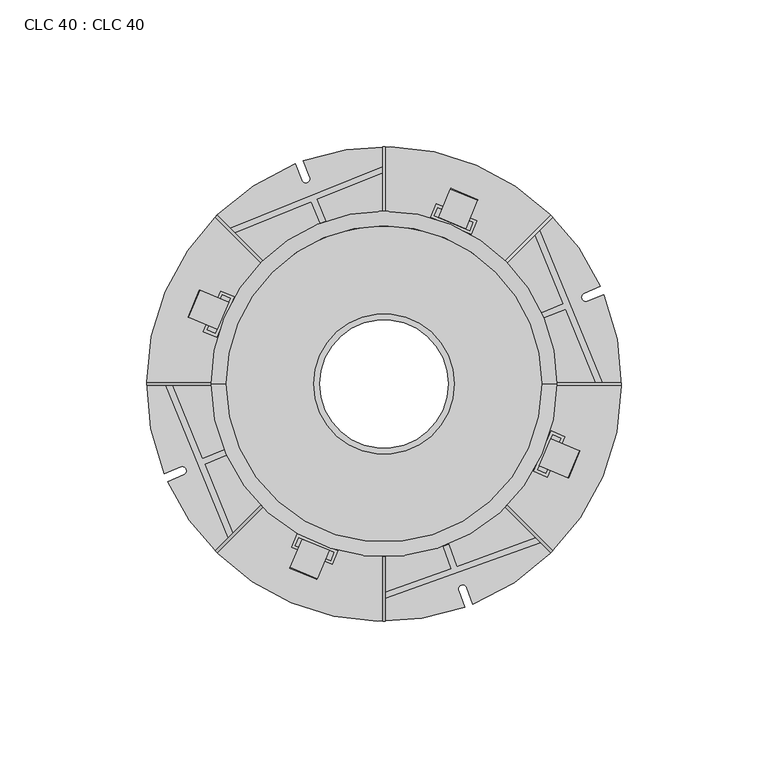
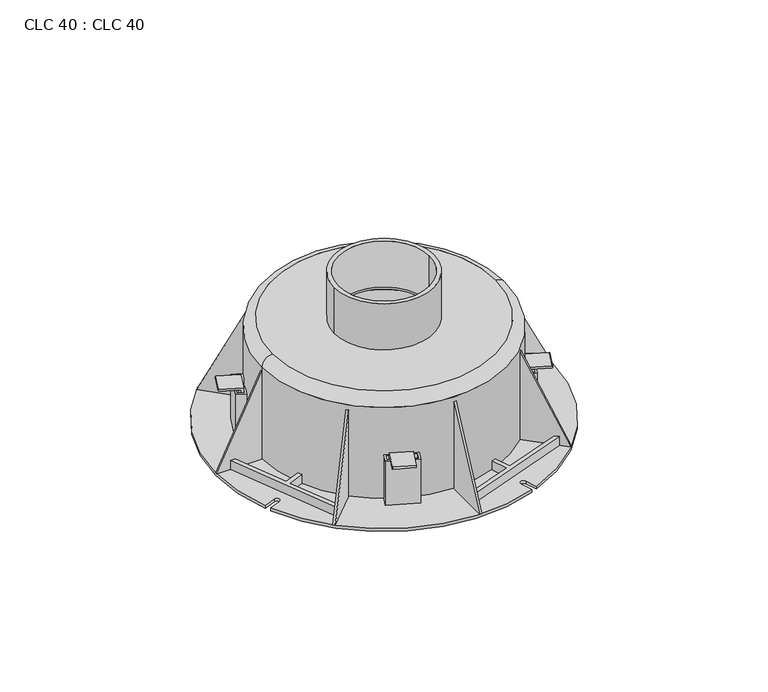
"""IFC4 building model written with IfcOpenShell, lengths in millimetres: proxy geometry, CLC 40 : CLC 40."""

from ifc_helpers import new_model, si_unit, point, frame, frame_2d, origin, origin_with_axes, origin_2d, place, context, project, spatial, polyline, circle_curve, ellipse_curve, trimmed, segment, composite_curve, outline, extrude, source, transform, mapped, element, save
from ifc_brep_helpers import plane_surface, cylinder_surface, revolved_surface, extruded_surface, advanced_brep


def clc_40_clc_40_8cc9e53f(model_context):
    return source(origin(), model_context, "Body", "SolidModel", [
        advanced_brep(
        [(24.7583425, 45.7277211, 6.0), (27.7719901, 52.8569236, 6.0), (18.5611342, 56.7505251, 6.0), (15.5474866, 49.6213226, 6.0), (-45.7246033, 24.7641001, 6.0), (-52.8534263, 27.7786453, 6.0), (-56.7481876, 18.5682797, 6.0), (-49.6193646, 15.5537345, 6.0), (-24.8886054, -45.6569526, 6.0), (-27.9022148, -52.7861712, 6.0), (-18.6913381, -56.6797235, 6.0), (-15.6888479, -49.5768096, 6.0), (45.72778, -24.7582337, 6.0), (52.8569897, -27.7718643, 6.0), (56.7505693, -18.5609991, 6.0), (49.6213596, -15.5473685, 6.0), (41.5, 0.0, 6.0), (-41.5, 0.0, 6.0), (24.7583425, 45.7277211, 5.0), (49.6213596, -15.5473685, 5.0), (56.7505693, -18.5609991, 5.0), (52.8569897, -27.7718643, 5.0), (45.72778, -24.7582337, 5.0), (-15.6888479, -49.5768096, 5.0), (-18.6913381, -56.6797235, 5.0), (-27.9022148, -52.7861712, 5.0), (-24.8886054, -45.6569526, 5.0), (-49.6193646, 15.5537345, 5.0), (-56.7481876, 18.5682797, 5.0), (-52.8534263, 27.7786453, 5.0), (-45.7246033, 24.7641001, 5.0), (15.5474866, 49.6213226, 5.0), (18.5611342, 56.7505251, 5.0), (27.7719901, 52.8569236, 5.0), (-40.0, 0.0, 5.0), (40.0, 0.0, 5.0), (40.0, 0.0, 6.0), (-40.0, 0.0, 6.0), (-41.5, 0.0, 9.5), (41.5, 0.0, 9.5), (-40.0, 0.0, 9.5), (40.0, 0.0, 9.5)],
        [
            (0, 1),
            (1, 2),
            (2, 3),
            (3, 4, circle_curve(frame((0.0, 0.0, 6.0), z_axis=(0.0, 0.0, 1.0), x_axis=(1.0, 0.0, 0.0)), 52.0)),
            (4, 5),
            (5, 6),
            (6, 7),
            (7, 8, circle_curve(frame((0.0, 0.0, 6.0), z_axis=(0.0, 0.0, 1.0), x_axis=(1.0, 0.0, 0.0)), 52.0)),
            (8, 9),
            (9, 10),
            (10, 11),
            (11, 12, circle_curve(frame((0.0, 0.0, 6.0), z_axis=(0.0, 0.0, 1.0), x_axis=(1.0, 0.0, 0.0)), 52.0)),
            (12, 13),
            (13, 14),
            (14, 15),
            (15, 0, circle_curve(frame((0.0, 0.0, 6.0), z_axis=(0.0, 0.0, 1.0), x_axis=(1.0, 0.0, 0.0)), 52.0)),
            (16, 17, circle_curve(frame((0.0, 0.0, 6.0), z_axis=(0.0, 0.0, -1.0), x_axis=(1.0, 0.0, 0.0)), 41.5)),
            (17, 16, circle_curve(frame((0.0, 0.0, 6.0), z_axis=(0.0, 0.0, -1.0), x_axis=(1.0, 0.0, 0.0)), 41.5)),
            (18, 19, circle_curve(frame((0.0, 0.0, 5.0), z_axis=(0.0, 0.0, -1.0), x_axis=(1.0, 0.0, 0.0)), 52.0)),
            (19, 20),
            (20, 21),
            (21, 22),
            (22, 23, circle_curve(frame((0.0, 0.0, 5.0), z_axis=(0.0, 0.0, -1.0), x_axis=(1.0, 0.0, 0.0)), 52.0)),
            (23, 24),
            (24, 25),
            (25, 26),
            (26, 27, circle_curve(frame((0.0, 0.0, 5.0), z_axis=(0.0, 0.0, -1.0), x_axis=(1.0, 0.0, 0.0)), 52.0)),
            (27, 28),
            (28, 29),
            (29, 30),
            (30, 31, circle_curve(frame((0.0, 0.0, 5.0), z_axis=(0.0, 0.0, -1.0), x_axis=(1.0, 0.0, 0.0)), 52.0)),
            (31, 32),
            (32, 33),
            (33, 18),
            (34, 35, circle_curve(frame((0.0, 0.0, 5.0), z_axis=(0.0, 0.0, 1.0), x_axis=(1.0, 0.0, 0.0)), 40.0)),
            (35, 34, circle_curve(frame((0.0, 0.0, 5.0), z_axis=(0.0, 0.0, 1.0), x_axis=(1.0, 0.0, 0.0)), 40.0)),
            (35, 36),
            (36, 37, circle_curve(frame((0.0, 0.0, 6.0), z_axis=(0.0, 0.0, 1.0), x_axis=(1.0, 0.0, 0.0)), 40.0)),
            (37, 34),
            (37, 36, circle_curve(frame((0.0, 0.0, 6.0), z_axis=(0.0, 0.0, 1.0), x_axis=(1.0, 0.0, 0.0)), 40.0)),
            (0, 18),
            (33, 1),
            (32, 2),
            (31, 3),
            (30, 4),
            (29, 5),
            (28, 6),
            (27, 7),
            (26, 8),
            (25, 9),
            (24, 10),
            (23, 11),
            (22, 12),
            (21, 13),
            (20, 14),
            (19, 15),
            (38, 39, circle_curve(frame((0.0, 0.0, 9.5), z_axis=(0.0, 0.0, 1.0), x_axis=(1.0, 0.0, 0.0)), 41.5)),
            (39, 38, circle_curve(frame((0.0, 0.0, 9.5), z_axis=(0.0, 0.0, 1.0), x_axis=(1.0, 0.0, 0.0)), 41.5)),
            (40, 41, circle_curve(frame((0.0, 0.0, 9.5), z_axis=(0.0, 0.0, -1.0), x_axis=(1.0, 0.0, 0.0)), 40.0)),
            (41, 40, circle_curve(frame((0.0, 0.0, 9.5), z_axis=(0.0, 0.0, -1.0), x_axis=(1.0, 0.0, 0.0)), 40.0)),
            (40, 37),
            (36, 41),
            (38, 17),
            (16, 39),
        ],
        [
            plane_surface(frame((40.0, 0.0, 6.0), z_axis=(0.0, 0.0, 1.0), x_axis=(0.0, -1.0, 0.0))),
            plane_surface(frame((40.0, 0.0, 5.0), z_axis=(0.0, 0.0, -1.0), x_axis=(0.0, 1.0, 0.0))),
            revolved_surface(polyline([(40.0, 0.0, 5.0), (40.0, 0.0, 6.0)]), (0.0, 0.0, 5.0), (0.0, 0.0, -1.0)),
            plane_surface(frame((24.7583425, 45.7277211, 6.0), z_axis=(0.9210855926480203, -0.3893601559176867, 0.0), x_axis=(0.0, 0.0, -1.0))),
            plane_surface(frame((27.7719901, 52.8569236, 6.0), z_axis=(0.38936015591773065, 0.9210855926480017, 0.0), x_axis=(0.0, 0.0, -1.0))),
            plane_surface(frame((18.5611342, 56.7505251, 6.0), z_axis=(-0.9210855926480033, 0.38936015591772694, 0.0), x_axis=(0.0, 0.0, -1.0))),
            cylinder_surface(frame((0.0, 0.0, 5.0), z_axis=(0.0, 0.0, 1.0), x_axis=(1.0, 0.0, 0.0)), 52.0),
            plane_surface(frame((-45.7246033, 24.7641001, 6.0), z_axis=(0.3894761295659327, 0.9210365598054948, 0.0), x_axis=(0.0, 0.0, -1.0))),
            plane_surface(frame((-52.8534263, 27.7786453, 6.0), z_axis=(-0.9210365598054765, 0.389476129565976, 0.0), x_axis=(0.0, 0.0, -1.0))),
            plane_surface(frame((-56.7481876, 18.5682797, 6.0), z_axis=(-0.38947612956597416, -0.9210365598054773, 0.0), x_axis=(0.0, 0.0, -1.0))),
            plane_surface(frame((-24.8886054, -45.6569526, 6.0), z_axis=(-0.9210876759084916, 0.38935522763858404, 0.0), x_axis=(0.0, 0.0, -1.0))),
            plane_surface(frame((-27.9022148, -52.7861712, 6.0), z_axis=(-0.3893552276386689, -0.9210876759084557, 0.0), x_axis=(0.0, 0.0, -1.0))),
            plane_surface(frame((-18.6913381, -56.6797235, 6.0), z_axis=(0.921087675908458, -0.38935522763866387, 0.0), x_axis=(0.0, 0.0, -1.0))),
            plane_surface(frame((45.72778, -24.7582337, 6.0), z_axis=(-0.38935796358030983, -0.9210865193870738, 0.0), x_axis=(0.0, 0.0, -1.0))),
            plane_surface(frame((52.8569897, -27.7718643, 6.0), z_axis=(0.9210865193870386, -0.3893579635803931, 0.0), x_axis=(0.0, 0.0, -1.0))),
            plane_surface(frame((56.7505693, -18.5609991, 6.0), z_axis=(0.389357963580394, 0.9210865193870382, 0.0), x_axis=(0.0, 0.0, -1.0))),
            plane_surface(frame((40.0, 0.0, 9.5), z_axis=(0.0, 0.0, 1.0), x_axis=(0.0, -1.0, 0.0))),
            revolved_surface(polyline([(40.0, 0.0, 6.0), (40.0, 0.0, 9.5)]), (0.0, 0.0, 6.0), (0.0, 0.0, -1.0)),
            cylinder_surface(frame((0.0, 0.0, 4.5), z_axis=(0.0, 0.0, 1.0), x_axis=(1.0, 0.0, 0.0)), 41.5),
        ],
        [
            (0, [[1, 2, 3, 4, 5, 6, 7, 8, 9, 10, 11, 12, 13, 14, 15, 16], [17, 18]]),
            (1, [[19, 20, 21, 22, 23, 24, 25, 26, 27, 28, 29, 30, 31, 32, 33, 34], [35, 36]]),
            (2, [[-36, 37, 38, 39]]),
            (2, [[-35, -39, 40, -37]]),
            (3, [[-1, 41, -34, 42]]),
            (4, [[-2, -42, -33, 43]]),
            (5, [[-3, -43, -32, 44]]),
            (6, [[-4, -44, -31, 45]]),
            (7, [[-5, -45, -30, 46]]),
            (8, [[-6, -46, -29, 47]]),
            (9, [[-7, -47, -28, 48]]),
            (6, [[-8, -48, -27, 49]]),
            (10, [[-9, -49, -26, 50]]),
            (11, [[-10, -50, -25, 51]]),
            (12, [[-11, -51, -24, 52]]),
            (6, [[-12, -52, -23, 53]]),
            (13, [[-13, -53, -22, 54]]),
            (14, [[-14, -54, -21, 55]]),
            (15, [[-15, -55, -20, 56]]),
            (6, [[-16, -56, -19, -41]]),
            (16, [[57, 58], [59, 60]]),
            (17, [[-59, 61, -38, 62]]),
            (17, [[-60, -62, -40, -61]]),
            (18, [[-57, 63, -17, 64]]),
            (18, [[-58, -64, -18, -63]]),
        ],
    ),
        extrude(outline(composite_curve([segment(trimmed(circle_curve(origin_2d(), 24.0), [point((-24.0, 0.0))], [point((24.0, 0.0))], False, "CARTESIAN"), True, "CONTINUOUS"), segment(trimmed(circle_curve(origin_2d(), 24.0), [point((24.0, 0.0))], [point((-24.0, 0.0))], False, "CARTESIAN"), True, "CONTINUOUS")], self_intersect=False), holes=[composite_curve([segment(trimmed(circle_curve(origin_2d(), 21.9), [point((21.9, 0.0))], [point((-21.9, 0.0))], True, "CARTESIAN"), True, "CONTINUOUS"), segment(trimmed(circle_curve(origin_2d(), 21.9), [point((-21.9, 0.0))], [point((21.9, 0.0))], True, "CARTESIAN"), True, "CONTINUOUS")], self_intersect=False)]), frame((0.0, 0.0, 53.0), z_axis=(0.0, 0.0, 1.0), x_axis=(1.0, 0.0, 0.0)), (0.0, 0.0, 1.0), 23.5),
        extrude(outline(polyline([(20.2073151, -55.4189041), (22.0886692, -54.7402975), (24.8030954, -62.2657138), (51.815281, -52.5223878), (53.377805, -54.0849118), (0.5, -73.1579962), (0.5, -71.031868), (22.9217414, -62.9443204), (20.2073151, -55.4189041)])), frame((0.0, 0.0, 1.5), z_axis=(0.0, 0.0, 1.0), x_axis=(1.0, 0.0, 0.0)), (0.0, 0.0, 1.0), 4.5),
        extrude(outline(polyline([(-54.5668459, -22.4160889), (-53.8065312, -24.2659326), (-61.2059058, -27.3071915), (-51.5375008, -50.8303941), (-53.0699749, -52.3628681), (-74.3864265, -0.5), (-72.2240816, -0.5), (-61.9662205, -25.4573479), (-54.5668459, -22.4160889)])), frame((0.0, 0.0, 1.5), z_axis=(0.0, 0.0, 1.0), x_axis=(1.0, 0.0, 0.0)), (0.0, 0.0, 1.0), 4.5),
        extrude(outline(polyline([(54.5284092, 22.5228399), (53.7680945, 24.3726836), (61.1674691, 27.4139425), (51.5465424, 50.8216306), (53.07383, 52.3667233), (74.3918662, 0.5), (72.2346596, 0.4874985), (61.9277838, 25.5640988), (54.5284092, 22.5228399)])), frame((0.0, 0.0, 1.5), z_axis=(0.0, 0.0, 1.0), x_axis=(1.0, 0.0, 0.0)), (0.0, 0.0, 1.0), 4.5),
        extrude(outline(polyline([(-19.9262914, 55.5664003), (-21.7805101, 54.8168184), (-24.7788377, 62.2336932), (-50.9476475, 51.6547543), (-52.4838634, 53.1909702), (-0.5, 74.2058394), (-0.5, 72.0485966), (-22.924619, 62.9832751), (-19.9262914, 55.5664003)])), frame((0.0, 0.0, 1.5), z_axis=(0.0, 0.0, 1.0), x_axis=(1.0, 0.0, 0.0)), (0.0, 0.0, 1.0), 4.5),
        advanced_brep(
        [(54.0, 0.0, 48.0), (54.0, 0.0, 52.0), (-54.0, 0.0, 52.0), (-54.0, 0.0, 48.0), (-59.0, 0.0, 48.0), (-54.0, 0.0, 53.0), (54.0, 0.0, 53.0), (59.0, 0.0, 48.0), (-21.9, 0.0, 53.0), (21.9, 0.0, 53.0), (-21.9, 0.0, 52.0), (21.9, 0.0, 52.0), (50.5, 0.0, 39.0), (-50.5, 0.0, 39.0), (40.0, 0.0, 39.0), (-40.0, 0.0, 39.0), (59.0, 0.0, 1.5), (-59.0, 0.0, 1.5), (40.0, 0.0, 1.5), (-40.0, 0.0, 1.5), (-50.5, 0.0, 48.0), (50.5, 0.0, 48.0)],
        [
            (0, 1),
            (1, 2, circle_curve(frame((0.0, 0.0, 52.0), z_axis=(0.0, 0.0, 1.0), x_axis=(-1.0, 0.0, 0.0)), 54.0)),
            (2, 3),
            (3, 0, circle_curve(frame((0.0, 0.0, 48.0), z_axis=(0.0, 0.0, -1.0), x_axis=(-1.0, 0.0, 0.0)), 54.0)),
            (4, 5, circle_curve(frame((-54.0, 0.0, 48.0), z_axis=(0.0, 1.0, 0.0), x_axis=(-1.0, 0.0, 0.0)), 5.0)),
            (5, 6, circle_curve(frame((0.0, 0.0, 53.0), z_axis=(0.0, 0.0, -1.0), x_axis=(-1.0, 0.0, 0.0)), 54.0)),
            (6, 7, circle_curve(frame((54.0, 0.0, 48.0), z_axis=(0.0, 1.0, 0.0), x_axis=(1.0, 0.0, 0.0)), 5.0)),
            (7, 4, circle_curve(frame((0.0, 0.0, 48.0), z_axis=(0.0, 0.0, 1.0), x_axis=(-1.0, 0.0, 0.0)), 59.0)),
            (0, 3, circle_curve(frame((0.0, 0.0, 48.0), z_axis=(0.0, 0.0, -1.0), x_axis=(1.0, 0.0, 0.0)), 54.0)),
            (2, 1, circle_curve(frame((0.0, 0.0, 52.0), z_axis=(0.0, 0.0, 1.0), x_axis=(1.0, 0.0, 0.0)), 54.0)),
            (4, 7, circle_curve(frame((0.0, 0.0, 48.0), z_axis=(0.0, 0.0, 1.0), x_axis=(1.0, 0.0, 0.0)), 59.0)),
            (6, 5, circle_curve(frame((0.0, 0.0, 53.0), z_axis=(0.0, 0.0, -1.0), x_axis=(1.0, 0.0, 0.0)), 54.0)),
            (8, 9, circle_curve(frame((0.0, 0.0, 53.0), z_axis=(0.0, 0.0, -1.0), x_axis=(1.0, 0.0, 0.0)), 21.9)),
            (9, 8, circle_curve(frame((0.0, 0.0, 53.0), z_axis=(0.0, 0.0, -1.0), x_axis=(1.0, 0.0, 0.0)), 21.9)),
            (10, 11, circle_curve(frame((0.0, 0.0, 52.0), z_axis=(0.0, 0.0, 1.0), x_axis=(1.0, 0.0, 0.0)), 21.9)),
            (11, 10, circle_curve(frame((0.0, 0.0, 52.0), z_axis=(0.0, 0.0, 1.0), x_axis=(1.0, 0.0, 0.0)), 21.9)),
            (8, 10),
            (11, 9),
            (12, 13, circle_curve(frame((0.0, 0.0, 39.0), z_axis=(0.0, 0.0, 1.0), x_axis=(1.0, 0.0, 0.0)), 50.5)),
            (13, 12, circle_curve(frame((0.0, 0.0, 39.0), z_axis=(0.0, 0.0, 1.0), x_axis=(1.0, 0.0, 0.0)), 50.5)),
            (14, 15, circle_curve(frame((0.0, 0.0, 39.0), z_axis=(0.0, 0.0, -1.0), x_axis=(1.0, 0.0, 0.0)), 40.0)),
            (15, 14, circle_curve(frame((0.0, 0.0, 39.0), z_axis=(0.0, 0.0, -1.0), x_axis=(1.0, 0.0, 0.0)), 40.0)),
            (16, 17, circle_curve(frame((0.0, 0.0, 1.5), z_axis=(0.0, 0.0, -1.0), x_axis=(1.0, 0.0, 0.0)), 59.0)),
            (17, 16, circle_curve(frame((0.0, 0.0, 1.5), z_axis=(0.0, 0.0, -1.0), x_axis=(1.0, 0.0, 0.0)), 59.0)),
            (18, 19, circle_curve(frame((0.0, 0.0, 1.5), z_axis=(0.0, 0.0, 1.0), x_axis=(1.0, 0.0, 0.0)), 40.0)),
            (19, 18, circle_curve(frame((0.0, 0.0, 1.5), z_axis=(0.0, 0.0, 1.0), x_axis=(1.0, 0.0, 0.0)), 40.0)),
            (14, 18),
            (19, 15),
            (20, 21, circle_curve(frame((0.0, 0.0, 48.0), z_axis=(0.0, 0.0, -1.0), x_axis=(1.0, 0.0, 0.0)), 50.5)),
            (21, 20, circle_curve(frame((0.0, 0.0, 48.0), z_axis=(0.0, 0.0, -1.0), x_axis=(1.0, 0.0, 0.0)), 50.5)),
            (20, 13),
            (12, 21),
            (17, 4),
            (7, 16),
        ],
        [
            revolved_surface(polyline([(-54.0, 0.0, 48.0), (-54.0, 0.0, 52.0)]), (0.0, 0.0, 0.0), (0.0, 0.0, -1.0)),
            revolved_surface(trimmed(ellipse_curve(frame((-54.0, 0.0, 48.0), z_axis=(0.0, -1.0, 0.0), x_axis=(-1.0, 0.0, 0.0)), 5.0, 5.0), [point((-54.0, 0.0, 53.0))], [point((-59.0, 0.0, 48.0))], True, "CARTESIAN"), (0.0, 0.0, 0.0), (0.0, 0.0, -1.0)),
            revolved_surface(polyline([(54.0, 0.0, 48.0), (54.0, 0.0, 52.0)]), (0.0, 0.0, 0.0), (0.0, 0.0, -1.0)),
            revolved_surface(trimmed(ellipse_curve(frame((54.0, 0.0, 48.0), z_axis=(0.0, 1.0, 0.0), x_axis=(1.0, 0.0, 0.0)), 5.0, 5.0), [point((54.0, 0.0, 53.0))], [point((59.0, 0.0, 48.0))], True, "CARTESIAN"), (0.0, 0.0, 0.0), (0.0, 0.0, -1.0)),
            plane_surface(frame((21.9, 0.0, 53.0), z_axis=(0.0, 0.0, 1.0), x_axis=(0.0, -1.0, 0.0))),
            plane_surface(frame((21.9, 0.0, 52.0), z_axis=(0.0, 0.0, -1.0), x_axis=(0.0, 1.0, 0.0))),
            revolved_surface(polyline([(21.9, 0.0, 52.0), (21.9, 0.0, 53.0)]), (0.0, 0.0, 52.0), (0.0, 0.0, -1.0)),
            plane_surface(frame((54.0, 0.0, 39.0), z_axis=(0.0, 0.0, 1.0), x_axis=(0.0, 1.0, 0.0))),
            plane_surface(frame((54.0, 0.0, 1.5), z_axis=(0.0, 0.0, -1.0), x_axis=(0.0, -1.0, 0.0))),
            revolved_surface(polyline([(40.0, 0.0, 1.5), (40.0, 0.0, 39.0)]), (0.0, 0.0, 1.0), (0.0, 0.0, -1.0)),
            plane_surface(frame((50.5, 0.0, 48.0), z_axis=(0.0, 0.0, 1.0), x_axis=(0.0, -1.0, 0.0))),
            revolved_surface(polyline([(50.5, 0.0, 39.0), (50.5, 0.0, 48.0)]), (0.0, 0.0, 1.5), (0.0, 0.0, -1.0)),
            cylinder_surface(frame((0.0, 0.0, 1.5), z_axis=(0.0, 0.0, 1.0), x_axis=(1.0, 0.0, 0.0)), 59.0),
        ],
        [
            (0, [[1, 2, 3, 4]]),
            (1, [[5, 6, 7, 8]]),
            (2, [[-1, 9, -3, 10]]),
            (3, [[-5, 11, -7, 12]]),
            (4, [[-6, -12], [13, 14]]),
            (5, [[-2, -10], [15, 16]]),
            (6, [[-13, 17, -16, 18]]),
            (6, [[-14, -18, -15, -17]]),
            (7, [[19, 20], [21, 22]]),
            (8, [[23, 24], [25, 26]]),
            (9, [[-21, 27, -26, 28]]),
            (9, [[-22, -28, -25, -27]]),
            (10, [[-4, -9], [29, 30]]),
            (11, [[-29, 31, -19, 32]]),
            (11, [[-30, -32, -20, -31]]),
            (12, [[-24, 33, -8, 34]]),
            (12, [[-23, -34, -11, -33]]),
        ],
    ),
        extrude(outline(polyline([(46.5, -59.0), (1.5, -81.0024753), (1.5, -59.0), (46.5, -59.0)])), frame((0.0, -0.5, 0.0), z_axis=(0.0, 1.0, 0.0), x_axis=(0.0, 0.0, 1.0)), (0.0, 0.0, 1.0), 1.0),
        extrude(outline(polyline([(0.0, 0.0), (50.0899192, 0.0), (40.4272962, -19.7644559), (0.0, 0.0)])), frame((-42.0711032, 41.3639964, 46.5), z_axis=(0.7071067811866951, 0.7071067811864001, 0.0), x_axis=(-0.3105684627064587, 0.3105684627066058, -0.8983843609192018)), (0.0, 0.0, 1.0), 1.0),
        extrude(outline(polyline([(45.0, 0.0), (0.0, -22.0), (0.0, 0.0), (45.0, 0.0)])), frame((-0.5, 58.9978813, 1.5), z_axis=(1.0, -2.8820179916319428e-11, -9.285588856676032e-12), x_axis=(9.285588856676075e-12, 0.0, 1.0)), (0.0, 0.0, 1.0), 1.0),
        extrude(outline(polyline([(-45.0, 0.0), (0.0, 0.0), (0.0, -22.0), (-45.0, 0.0)])), frame((42.0711032, 41.3639964, 1.5), z_axis=(-0.7071067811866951, 0.7071067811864, 0.0), x_axis=(0.0, 0.0, -1.0)), (0.0, 0.0, 1.0), 1.0),
        extrude(outline(polyline([(46.5, 59.0), (1.5, 59.0), (1.5, 81.0), (46.5, 59.0)])), frame((0.0, -0.5, 0.0), z_axis=(0.0, 1.0, 0.0), x_axis=(0.0, 0.0, 1.0)), (0.0, 0.0, 1.0), 1.0),
        extrude(outline(polyline([(50.0899191, 0.0), (9.6626229, -19.7644559), (0.0, 0.0), (50.0899191, 0.0)])), frame((-0.5, -80.9978813, 1.5), z_axis=(1.0, 2.882017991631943e-11, -9.285588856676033e-12), x_axis=(-4.3160872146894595e-12, 0.43921013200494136, 0.8983843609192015)), (0.0, 0.0, 1.0), 1.0),
        extrude(outline(polyline([(50.0899192, 0.0), (9.6626229, -19.764456), (0.0, 0.0), (50.0899192, 0.0)])), frame((56.9203456, -57.6274524, 1.5), z_axis=(0.7071067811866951, 0.7071067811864, 0.0), x_axis=(-0.3105684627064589, 0.31056846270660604, 0.8983843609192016)), (0.0, 0.0, 1.0), 1.0),
        extrude(outline(polyline([(45.0, 0.0), (0.0, -22.0024753), (0.0, 0.0), (45.0, 0.0)])), frame((-41.3639964, -42.0711032, 1.5), z_axis=(-0.7071067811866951, 0.7071067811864, 0.0), x_axis=(0.0, 0.0, 1.0)), (0.0, 0.0, 1.0), 1.0),
        advanced_brep(
        [(-18.7307472, -56.773359, 25.4), (-22.8189851, -66.4447762, 25.4), (-22.8189851, -66.4447762, 24.4), (-19.1201032, -57.6944464, 24.4), (-19.1201032, -57.6944464, 1.0), (-18.7307472, -56.773359, 1.0), (-27.9416207, -52.8797991, 25.4), (-27.9416207, -52.8797991, 1.0), (-28.3309767, -53.8008865, 1.0), (-28.3309767, -53.8008865, 24.4), (-32.0298586, -62.5512163, 24.4), (-32.0298586, -62.5512163, 25.4)],
        [
            (0, 1),
            (1, 2, ellipse_curve(frame((-22.8189851, -66.4447762, 24.9), z_axis=(0.9210873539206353, -0.38935598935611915, 0.0), x_axis=(0.0, 0.0, 1.0)), 0.5, 0.25)),
            (2, 3),
            (3, 4),
            (4, 5),
            (5, 0),
            (6, 7),
            (7, 8),
            (8, 9),
            (9, 10),
            (10, 11, ellipse_curve(frame((-32.0298586, -62.5512163, 24.9), z_axis=(-0.9210873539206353, 0.38935598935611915, 0.0), x_axis=(0.0, 0.0, 1.0)), 0.5, 0.25)),
            (11, 6),
            (0, 6),
            (11, 1),
            (10, 2),
            (9, 3),
            (8, 4),
            (7, 5),
        ],
        [
            plane_surface(frame((-18.7307472, -56.773359, 25.4), z_axis=(0.9210873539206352, -0.38935598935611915, 0.0), x_axis=(-0.38935598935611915, -0.9210873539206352, 0.0))),
            plane_surface(frame((-27.9416207, -52.8797991, 25.4), z_axis=(-0.9210873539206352, 0.38935598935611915, 0.0), x_axis=(0.38935598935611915, 0.9210873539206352, 0.0))),
            plane_surface(frame((-18.7307472, -56.773359, 25.4), z_axis=(0.0, 0.0, 1.0), x_axis=(-0.9210873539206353, 0.38935598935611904, 0.0))),
            extruded_surface(trimmed(ellipse_curve(frame((-41.2407321, -58.6576564, 24.9), z_axis=(0.9210873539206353, -0.38935598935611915, 0.0), x_axis=(0.0, 0.0, 1.0)), 0.5, 0.25), [point((-41.2407321, -58.6576564, 25.4))], [point((-41.2407321, -58.6576564, 24.4))], True, "CARTESIAN"), (9.210873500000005, -3.8935598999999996, 0.0), 9.999999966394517),
            plane_surface(frame((-22.8189851, -66.4447762, 24.4), z_axis=(0.0, 0.0, -1.0), x_axis=(-0.9210873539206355, 0.3893559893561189, 0.0))),
            plane_surface(frame((-19.1201032, -57.6944464, 24.4), z_axis=(-0.3893559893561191, -0.9210873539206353, 0.0), x_axis=(-0.9210873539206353, 0.3893559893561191, 0.0))),
            plane_surface(frame((-19.1201032, -57.6944464, 1.0), z_axis=(0.0, 0.0, -1.0), x_axis=(-0.9210873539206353, 0.3893559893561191, 0.0))),
            plane_surface(frame((-18.7307472, -56.773359, 1.0), z_axis=(0.38935598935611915, 0.9210873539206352, 0.0), x_axis=(-0.9210873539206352, 0.38935598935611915, 0.0))),
        ],
        [
            (0, [[1, 2, 3, 4, 5, 6]]),
            (1, [[7, 8, 9, 10, 11, 12]]),
            (2, [[-1, 13, -12, 14]]),
            (3, [[-2, -14, -11, 15]]),
            (4, [[-3, -15, -10, 16]]),
            (5, [[-4, -16, -9, 17]]),
            (6, [[-5, -17, -8, 18]]),
            (7, [[-6, -18, -7, -13]]),
        ],
    ),
        extrude(outline(polyline([(-29.6103991, -51.1254986), (-15.7779457, -56.927501), (-17.7119465, -61.5383188), (-31.5443999, -55.7363164), (-29.6103991, -51.1254986)]), holes=[polyline([(-29.0750357, -52.4344623), (-30.2354362, -55.200953), (-18.2473099, -60.229355), (-17.0869094, -57.4628644), (-29.0750357, -52.4344623)])]), frame((0.0, 0.0, 1.5), z_axis=(0.0, 0.0, 1.0), x_axis=(1.0, 0.0, 0.0)), (0.0, 0.0, 1.0), 22.5),
        extrude(outline(polyline([(15.9061908, 56.8967888), (17.8551838, 61.5012895), (31.6686857, 55.6543105), (29.7196927, 51.0498098), (15.9061908, 56.8967888)]), holes=[polyline([(17.2168895, 57.4278903), (29.1885912, 52.3605086), (30.357987, 55.123209), (18.3862853, 60.1905907), (17.2168895, 57.4278903)])]), frame((0.0, 0.0, 1.5), z_axis=(0.0, 0.0, 1.0), x_axis=(1.0, 0.0, 0.0)), (0.0, 0.0, 1.0), 22.5),
        advanced_brep(
        [(56.9399677, -18.6410609, 25.4), (66.6113762, -22.7293195, 25.4), (66.6113762, -22.7293195, 24.4), (57.8610542, -19.0304188, 24.4), (57.8610542, -19.0304188, 1.0), (56.9399677, -18.6410609, 1.0), (53.0463881, -27.8519261, 25.4), (53.0463881, -27.8519261, 1.0), (53.9674746, -28.241284, 1.0), (53.9674746, -28.241284, 24.4), (62.7177965, -31.9401847, 24.4), (62.7177965, -31.9401847, 25.4)],
        [
            (0, 1),
            (1, 2, ellipse_curve(frame((66.6113762, -22.7293195, 24.9), z_axis=(0.38935796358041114, 0.9210865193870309, 0.0), x_axis=(0.0, 0.0, 1.0)), 0.5, 0.25)),
            (2, 3),
            (3, 4),
            (4, 5),
            (5, 0),
            (6, 7),
            (7, 8),
            (8, 9),
            (9, 10),
            (10, 11, ellipse_curve(frame((62.7177965, -31.9401847, 24.9), z_axis=(-0.38935796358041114, -0.9210865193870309, 0.0), x_axis=(0.0, 0.0, 1.0)), 0.5, 0.25)),
            (11, 6),
            (0, 6),
            (11, 1),
            (10, 2),
            (9, 3),
            (8, 4),
            (7, 5),
        ],
        [
            plane_surface(frame((56.9399677, -18.6410609, 25.4), z_axis=(0.3893579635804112, 0.921086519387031, 0.0), x_axis=(0.921086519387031, -0.3893579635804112, 0.0))),
            plane_surface(frame((53.0463881, -27.8519261, 25.4), z_axis=(-0.3893579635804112, -0.921086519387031, 0.0), x_axis=(-0.921086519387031, 0.3893579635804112, 0.0))),
            plane_surface(frame((56.9399677, -18.6410609, 25.4), z_axis=(0.0, 0.0, 1.0), x_axis=(-0.38935796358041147, -0.9210865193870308, 0.0))),
            extruded_surface(trimmed(ellipse_curve(frame((58.8242169, -41.1510499, 24.9), z_axis=(0.38935796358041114, 0.9210865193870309, 0.0), x_axis=(0.0, 0.0, 1.0)), 0.5, 0.25), [point((58.8242169, -41.1510499, 25.4))], [point((58.8242169, -41.1510499, 24.4))], True, "CARTESIAN"), (3.8935795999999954, 9.210865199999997, 0.0), 9.999999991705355),
            plane_surface(frame((66.6113762, -22.7293195, 24.4), z_axis=(0.0, 0.0, -1.0), x_axis=(-0.3893579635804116, -0.9210865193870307, 0.0))),
            plane_surface(frame((57.8610542, -19.0304188, 24.4), z_axis=(0.9210865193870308, -0.38935796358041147, 0.0), x_axis=(-0.38935796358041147, -0.9210865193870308, 0.0))),
            plane_surface(frame((57.8610542, -19.0304188, 1.0), z_axis=(0.0, 0.0, -1.0), x_axis=(-0.3893579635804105, -0.9210865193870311, 0.0))),
            plane_surface(frame((56.9399677, -18.6410609, 1.0), z_axis=(-0.9210865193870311, 0.38935796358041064, 0.0), x_axis=(-0.38935796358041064, -0.9210865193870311, 0.0))),
        ],
        [
            (0, [[1, 2, 3, 4, 5, 6]]),
            (1, [[7, 8, 9, 10, 11, 12]]),
            (2, [[-1, 13, -12, 14]]),
            (3, [[-2, -14, -11, 15]]),
            (4, [[-3, -15, -10, 16]]),
            (5, [[-4, -16, -9, 17]]),
            (6, [[-5, -17, -8, 18]]),
            (7, [[-6, -18, -7, -13]]),
        ],
    ),
        extrude(outline(polyline([(56.9848309, -15.9696441), (61.5893315, -17.9186371), (55.7423526, -31.7321391), (51.1378519, -29.7831461), (56.9848309, -15.9696441)]), holes=[polyline([(57.5159324, -17.2803428), (52.4485506, -29.2520445), (55.211251, -30.4214403), (60.2786328, -18.4497386), (57.5159324, -17.2803428)])]), frame((0.0, 0.0, 1.5), z_axis=(0.0, 0.0, 1.0), x_axis=(1.0, 0.0, 0.0)), (0.0, 0.0, 1.0), 22.5),
        advanced_brep(
        [(-56.9381578, 18.6486119, 25.4), (-66.6090417, 22.7381112, 25.4), (-66.6090417, 22.7381112, 24.4), (-57.8591944, 19.038088, 24.4), (-57.8591944, 19.038088, 1.0), (-56.9381578, 18.6486119, 1.0), (-53.0433965, 27.8589775, 25.4), (-53.0433965, 27.8589775, 1.0), (-53.9644331, 28.2484536, 1.0), (-53.9644331, 28.2484536, 24.4), (-62.7142804, 31.9484768, 24.4), (-62.7142804, 31.9484768, 25.4)],
        [
            (0, 1),
            (1, 2, ellipse_curve(frame((-66.6090417, 22.7381112, 24.9), z_axis=(-0.3894761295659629, -0.921036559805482, 0.0), x_axis=(0.0, 0.0, 1.0)), 0.5, 0.25)),
            (2, 3),
            (3, 4),
            (4, 5),
            (5, 0),
            (6, 7),
            (7, 8),
            (8, 9),
            (9, 10),
            (10, 11, ellipse_curve(frame((-62.7142804, 31.9484768, 24.9), z_axis=(0.3894761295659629, 0.921036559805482, 0.0), x_axis=(0.0, 0.0, 1.0)), 0.5, 0.25)),
            (11, 6),
            (0, 6),
            (11, 1),
            (10, 2),
            (9, 3),
            (8, 4),
            (7, 5),
        ],
        [
            plane_surface(frame((-56.9381578, 18.6486119, 25.4), z_axis=(-0.38947612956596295, -0.921036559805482, 0.0), x_axis=(-0.921036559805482, 0.38947612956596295, 0.0))),
            plane_surface(frame((-53.0433965, 27.8589775, 25.4), z_axis=(0.38947612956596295, 0.921036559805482, 0.0), x_axis=(0.921036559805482, -0.38947612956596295, 0.0))),
            plane_surface(frame((-56.9381578, 18.6486119, 25.4), z_axis=(0.0, 0.0, 1.0), x_axis=(0.38947612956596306, 0.9210365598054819, 0.0))),
            extruded_surface(trimmed(ellipse_curve(frame((-58.8195191, 41.1588424, 24.9), z_axis=(-0.3894761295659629, -0.921036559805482, 0.0), x_axis=(0.0, 0.0, 1.0)), 0.5, 0.25), [point((-58.8195191, 41.1588424, 25.4))], [point((-58.8195191, 41.1588424, 24.4))], True, "CARTESIAN"), (-3.894761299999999, -9.210365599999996, 0.0), 10.000000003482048),
            plane_surface(frame((-66.6090417, 22.7381112, 24.4), z_axis=(0.0, 0.0, -1.0000000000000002), x_axis=(0.3894761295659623, 0.9210365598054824, 0.0))),
            plane_surface(frame((-57.8591944, 19.038088, 24.4), z_axis=(-0.921036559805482, 0.389476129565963, 0.0), x_axis=(0.389476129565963, 0.921036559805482, 0.0))),
            plane_surface(frame((-57.8591944, 19.038088, 1.0), z_axis=(0.0, 0.0, -1.0), x_axis=(0.389476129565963, 0.921036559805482, 0.0))),
            plane_surface(frame((-56.9381578, 18.6486119, 1.0), z_axis=(0.9210365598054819, -0.38947612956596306, 0.0), x_axis=(0.38947612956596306, 0.9210365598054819, 0.0))),
        ],
        [
            (0, [[1, 2, 3, 4, 5, 6]]),
            (1, [[7, 8, 9, 10, 11, 12]]),
            (2, [[-1, 13, -12, 14]]),
            (3, [[-2, -14, -11, 15]]),
            (4, [[-3, -15, -10, 16]]),
            (5, [[-4, -16, -9, 17]]),
            (6, [[-5, -17, -8, 18]]),
            (7, [[-6, -18, -7, -13]]),
        ],
    ),
        extrude(outline(polyline([(-51.1462703, 29.7777667), (-56.9884123, 15.9622183), (-61.5935951, 17.9095989), (-55.7514531, 31.7251473), (-51.1462703, 29.7777667)]), holes=[polyline([(-52.456783, 29.2462063), (-55.2198927, 30.4146346), (-60.2830824, 18.4411594), (-57.5199727, 17.272731), (-52.456783, 29.2462063)])]), frame((0.0, 0.0, 1.5), z_axis=(0.0, 0.0, 1.0), x_axis=(1.0, 0.0, 0.0)), (0.0, 0.0, 1.0), 22.5),
        extrude(outline(composite_curve([segment(trimmed(circle_curve(origin_2d(), 81.0), [point((27.4835655, -76.1948399))], [point((-73.8376655, -33.3016388))], False, "CARTESIAN"), True, "CONTINUOUS"), segment(polyline([(-73.8376655, -33.3016388), (-68.2795164, -31.0171524)]), True, "CONTINUOUS"), segment(trimmed(circle_curve(frame_2d((-68.8497525, -29.6297697)), 1.5), [point((-68.2795164, -31.0171524))], [point((-69.4199885, -28.242387))], True, "CARTESIAN"), True, "CONTINUOUS"), segment(polyline([(-69.4199885, -28.242387), (-75.0203358, -30.5442174)]), True, "CONTINUOUS"), segment(trimmed(circle_curve(origin_2d(), 81.0), [point((-75.0203358, -30.5442174))], [point((-30.3580671, 75.0958571))], False, "CARTESIAN"), True, "CONTINUOUS"), segment(polyline([(-30.3580671, 75.0958571), (-28.0884926, 69.4816773)]), True, "CONTINUOUS"), segment(trimmed(circle_curve(frame_2d((-26.6978285, 70.0438637)), 1.5), [point((-28.0884926, 69.4816773))], [point((-25.3071645, 70.6060502))], True, "CARTESIAN"), True, "CONTINUOUS"), segment(polyline([(-25.3071645, 70.6060502), (-27.5559102, 76.1687062)]), True, "CONTINUOUS"), segment(trimmed(circle_curve(origin_2d(), 81.0), [point((-27.5559102, 76.1687062))], [point((73.8416448, 33.2928144))], False, "CARTESIAN"), True, "CONTINUOUS"), segment(polyline([(73.8416448, 33.2928144), (68.2858481, 31.0092949)]), True, "CONTINUOUS"), segment(trimmed(circle_curve(frame_2d((68.8560841, 29.6219122)), 1.5), [point((68.2858481, 31.0092949))], [point((69.4263202, 28.2345294))], True, "CARTESIAN"), True, "CONTINUOUS"), segment(polyline([(69.4263202, 28.2345294), (75.0239835, 30.5352568)]), True, "CONTINUOUS"), segment(trimmed(circle_curve(origin_2d(), 81.0), [point((75.0239835, 30.5352568))], [point((30.2867399, -75.1246523))], False, "CARTESIAN"), True, "CONTINUOUS"), segment(polyline([(30.2867399, -75.1246523), (28.2509203, -69.4805901)]), True, "CONTINUOUS"), segment(trimmed(circle_curve(frame_2d((26.8399047, -69.989545)), 1.5), [point((28.2509203, -69.4805901))], [point((25.4288892, -70.4984999))], True, "CARTESIAN"), True, "CONTINUOUS"), segment(polyline([(25.4288892, -70.4984999), (27.4835655, -76.1948399)]), True, "CONTINUOUS")], self_intersect=False), holes=[composite_curve([segment(polyline([(-56.7481876, 18.5682797), (-51.0071692, 16.1405915)]), True, "CONTINUOUS"), segment(trimmed(circle_curve(origin_2d(), 53.5), [point((-51.0071692, 16.1405915))], [point((-25.4754398, -47.0452119))], True, "CARTESIAN"), True, "CONTINUOUS"), segment(polyline([(-25.4754398, -47.0452119), (-27.9022148, -52.7861712), (-18.6940093, -56.6786033), (-16.2781336, -50.9634415)]), True, "CONTINUOUS"), segment(trimmed(circle_curve(origin_2d(), 53.5), [point((-16.2781336, -50.9634415))], [point((47.1156598, -25.3449126))], True, "CARTESIAN"), True, "CONTINUOUS"), segment(polyline([(47.1156598, -25.3449126), (52.8569897, -27.7718643), (56.7505693, -18.5609991), (51.0092395, -16.1340475)]), True, "CONTINUOUS"), segment(trimmed(circle_curve(origin_2d(), 53.5), [point((51.0092395, -16.1340475))], [point((25.3450248, 47.1155995))], True, "CARTESIAN"), True, "CONTINUOUS"), segment(polyline([(25.3450248, 47.1155995), (27.7719901, 52.8569236), (18.5611342, 56.7505251), (16.1341689, 51.0092011)]), True, "CONTINUOUS"), segment(trimmed(circle_curve(origin_2d(), 53.5), [point((16.1341689, 51.0092011))], [point((-47.1124079, 25.3509571))], True, "CARTESIAN"), True, "CONTINUOUS"), segment(polyline([(-47.1124079, 25.3509571), (-52.8534263, 27.7786453), (-56.7481876, 18.5682797)]), True, "CONTINUOUS")], self_intersect=False)]), origin_with_axes(), (0.0, 0.0, 1.0), 1.5),
        advanced_brep(
        [(18.5999651, 56.8410418, 25.4), (22.6882467, 66.5124405, 25.4), (22.6882467, 66.5124405, 24.4), (18.9893252, 57.7621274, 24.4), (18.9893252, 57.7621274, 1.5), (18.5999651, 56.8410418, 1.5), (27.810821, 52.9474403, 25.4), (27.810821, 52.9474403, 1.5), (28.2001811, 53.8685258, 1.5), (28.2001811, 53.8685258, 24.4), (31.8991026, 62.618839, 24.4), (31.8991026, 62.618839, 25.4)],
        [
            (0, 1),
            (1, 2, ellipse_curve(frame((22.6882467, 66.5124405, 24.9), z_axis=(-0.9210855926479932, 0.3893601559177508, 0.0), x_axis=(0.0, 0.0, 1.0)), 0.5, 0.25)),
            (2, 3),
            (3, 4),
            (4, 5),
            (5, 0),
            (6, 7),
            (7, 8),
            (8, 9),
            (9, 10),
            (10, 11, ellipse_curve(frame((31.8991026, 62.618839, 24.9), z_axis=(0.9210855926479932, -0.3893601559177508, 0.0), x_axis=(0.0, 0.0, 1.0)), 0.5, 0.25)),
            (11, 6),
            (0, 6),
            (11, 1),
            (10, 2),
            (9, 3),
            (8, 4),
            (7, 5),
        ],
        [
            plane_surface(frame((18.5999651, 56.8410418, 25.4), z_axis=(-0.9210855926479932, 0.3893601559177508, 0.0), x_axis=(0.3893601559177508, 0.9210855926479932, 0.0))),
            plane_surface(frame((27.810821, 52.9474403, 25.4), z_axis=(0.9210855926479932, -0.3893601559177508, 0.0), x_axis=(-0.3893601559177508, -0.9210855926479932, 0.0))),
            plane_surface(frame((18.5999651, 56.8410418, 25.4), z_axis=(0.0, 0.0, 1.0), x_axis=(0.9210855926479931, -0.3893601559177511, 0.0))),
            extruded_surface(trimmed(ellipse_curve(frame((41.1099586, 58.7252374, 24.9), z_axis=(-0.9210855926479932, 0.3893601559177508, 0.0), x_axis=(0.0, 0.0, 1.0)), 0.5, 0.25), [point((41.1099586, 58.7252374, 25.4))], [point((41.1099586, 58.7252374, 24.4))], True, "CARTESIAN"), (-9.210856, 3.8936016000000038, 0.0), 10.00000008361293),
            plane_surface(frame((22.6882467, 66.5124405, 24.4), z_axis=(0.0, 0.0, -1.0), x_axis=(0.9210855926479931, -0.3893601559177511, 0.0))),
            plane_surface(frame((18.9893252, 57.7621274, 24.4), z_axis=(0.3893601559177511, 0.9210855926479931, 0.0), x_axis=(0.9210855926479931, -0.3893601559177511, 0.0))),
            plane_surface(frame((18.9893252, 57.7621274, 1.5), z_axis=(0.0, 0.0, -1.0), x_axis=(0.9210855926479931, -0.3893601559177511, 0.0))),
            plane_surface(frame((18.5999651, 56.8410418, 1.5), z_axis=(-0.3893601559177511, -0.9210855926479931, 0.0), x_axis=(0.9210855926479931, -0.3893601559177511, 0.0))),
        ],
        [
            (0, [[1, 2, 3, 4, 5, 6]]),
            (1, [[7, 8, 9, 10, 11, 12]]),
            (2, [[-1, 13, -12, 14]]),
            (3, [[-2, -14, -11, 15]]),
            (4, [[-3, -15, -10, 16]]),
            (5, [[-4, -16, -9, 17]]),
            (6, [[-5, -17, -8, 18]]),
            (7, [[-6, -18, -7, -13]]),
        ],
    ),
    ])


if __name__ == "__main__":
    model = new_model("IFC4")
    model_context = context("Model", 3, world=origin())
    ifc_project = project(units=[si_unit("LENGTHUNIT", "METRE", prefix="MILLI")], contexts=[model_context])
    site = spatial("IfcSite", under=ifc_project)
    building = spatial("IfcBuilding", under=site)
    placement = place(None, origin())
    clc_40_clc_40_shape = clc_40_clc_40_8cc9e53f(model_context)
    element("IfcBuildingElementProxy", 1, Name="CLC 40 : CLC 40", ObjectType="CLC 40 : CLC 40", at=placement, inside=building, context=model_context, shape_type="MappedRepresentation", body=[
        mapped(clc_40_clc_40_shape, transform((0.0, 0.0, 0.0), x_axis=(1.0, 0.0, 0.0), y_axis=(0.0, 1.0, 0.0), z_axis=(0.0, 0.0, 1.0))),
    ])
    save(model, "model.ifc")
